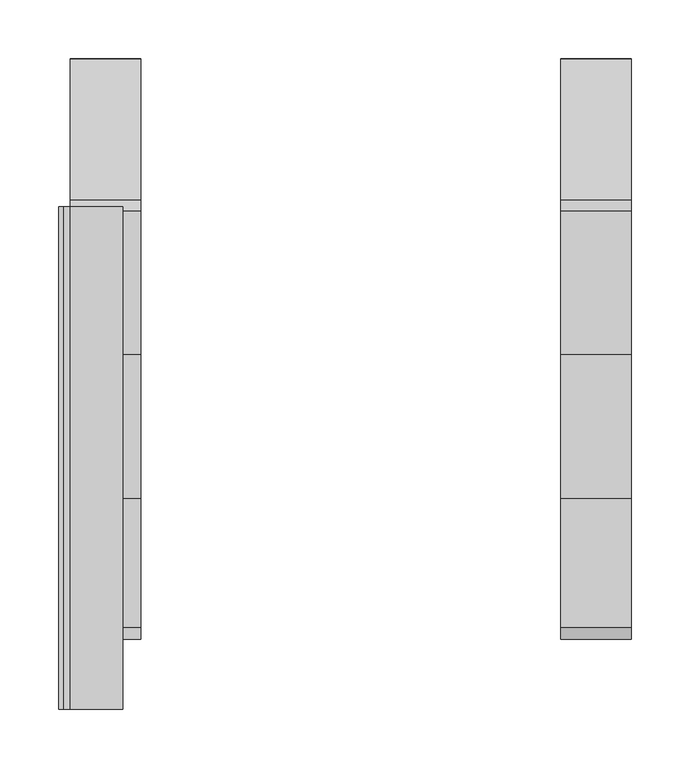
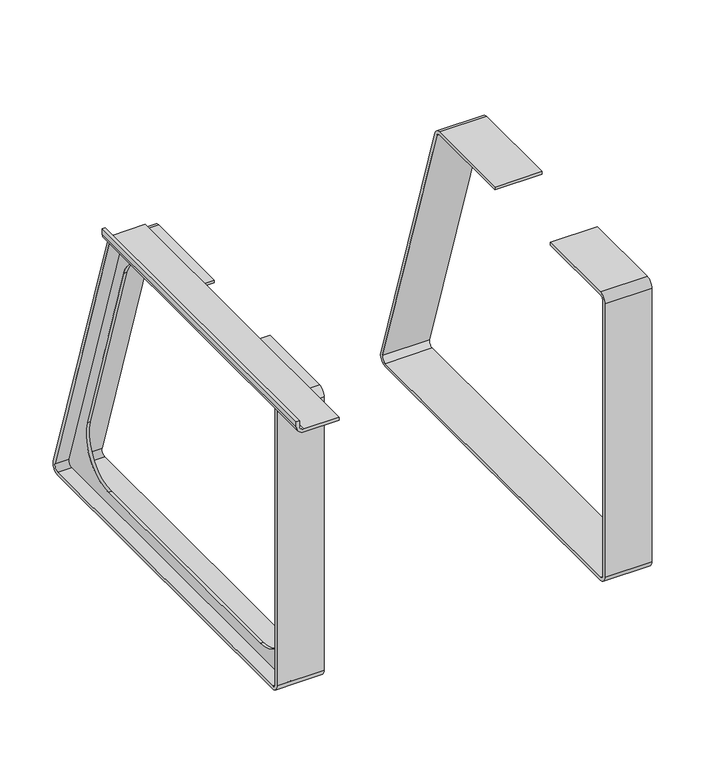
"""IFC4 building model written with IfcOpenShell, lengths in millimetres: furniture geometry, Roros Produkter - Trend - Chair - 32975 : Roros Produkter - Trend - Chair - 32975."""

from ifc_helpers import new_model, si_unit, point, frame, frame_2d, origin, place, context, project, spatial, polyline, circle_curve, trimmed, segment, composite_curve, outline, extrude, source, transform, mapped, element, save


def furniture_f364a5a9(model_context):
    return source(origin(), model_context, "Body", "SweptSolid", [
        extrude(outline(composite_curve([segment(trimmed(circle_curve(frame_2d((238.4053404, 31.7)), 10.0), [point((247.9159055, 34.7901699))], [point((238.4053404, 21.7))], False, "CARTESIAN"), True, "CONTINUOUS"), segment(polyline([(238.4053404, 21.7), (-237.8308404, 21.7)]), True, "CONTINUOUS"), segment(trimmed(circle_curve(frame_2d((-237.8308404, 31.7)), 10.0), [point((-237.8308404, 21.7))], [point((-247.8308404, 31.7))], False, "CARTESIAN"), True, "CONTINUOUS"), segment(polyline([(-247.8308404, 31.7), (-247.8308404, 401.464)]), True, "CONTINUOUS"), segment(trimmed(circle_curve(frame_2d((-237.8308404, 401.464)), 10.0), [point((-247.8308404, 401.464))], [point((-237.8308404, 411.464))], False, "CARTESIAN"), True, "CONTINUOUS"), segment(polyline([(-237.8308404, 411.464), (-127.8308404, 411.464), (-127.8308404, 407.464), (-237.8308404, 407.464)]), True, "CONTINUOUS"), segment(trimmed(circle_curve(frame_2d((-237.8308404, 401.464)), 6.0), [point((-237.8308404, 407.464))], [point((-243.8308404, 401.464))], True, "CARTESIAN"), True, "CONTINUOUS"), segment(polyline([(-243.8308404, 401.464), (-243.8308404, 31.7)]), True, "CONTINUOUS"), segment(trimmed(circle_curve(frame_2d((-237.8308404, 31.7)), 6.0), [point((-243.8308404, 31.7))], [point((-237.8308404, 25.7))], True, "CARTESIAN"), True, "CONTINUOUS"), segment(polyline([(-237.8308404, 25.7), (238.4053404, 25.7)]), True, "CONTINUOUS"), segment(trimmed(circle_curve(frame_2d((238.4053404, 31.7)), 6.0), [point((238.4053404, 25.7))], [point((244.1116795, 33.554102))], True, "CARTESIAN"), True, "CONTINUOUS"), segment(polyline([(244.1116795, 33.554102), (123.9681107, 403.3179856)]), True, "CONTINUOUS"), segment(trimmed(circle_curve(frame_2d((118.2617716, 401.4638836)), 6.0), [point((123.9681107, 403.3179856))], [point((118.2617716, 407.4638836))], True, "CARTESIAN"), True, "CONTINUOUS"), segment(polyline([(118.2617716, 407.4638836), (-4.4728031, 407.4638836), (-4.4728031, 411.4638836), (118.2617716, 411.4638836)]), True, "CONTINUOUS"), segment(trimmed(circle_curve(frame_2d((118.2617716, 401.4638836)), 10.0), [point((118.2617716, 411.4638836))], [point((127.7723368, 404.5540536))], False, "CARTESIAN"), True, "CONTINUOUS"), segment(polyline([(127.7723368, 404.5540536), (247.9159055, 34.7901699)]), True, "CONTINUOUS")], self_intersect=False)), frame((179.2, 0.0, 0.0), z_axis=(1.0, 0.0, 0.0), x_axis=(0.0, 1.0, 0.0)), (0.0, 0.0, 1.0), 60.0),
        extrude(outline(composite_curve([segment(polyline([(428.7988272, -246.0), (428.7988272, -250.0), (421.464, -250.0)]), True, "CONTINUOUS"), segment(trimmed(circle_curve(frame_2d((421.464, -240.0)), 10.0), [point((421.464, -250.0))], [point((411.464, -240.0))], False, "CARTESIAN"), True, "CONTINUOUS"), segment(polyline([(411.464, -240.0), (411.464, -195.0), (415.464, -195.0), (415.464, -240.0)]), True, "CONTINUOUS"), segment(trimmed(circle_curve(frame_2d((421.464, -240.0)), 6.0), [point((415.464, -240.0))], [point((421.464, -246.0))], True, "CARTESIAN"), True, "CONTINUOUS"), segment(polyline([(421.464, -246.0), (428.7988272, -246.0)]), True, "CONTINUOUS")], self_intersect=False)), frame((0.0, -307.8308404, 0.0), z_axis=(0.0, 1.0, 0.0), x_axis=(0.0, 0.0, 1.0)), (0.0, 0.0, 1.0), 429.5731445),
        extrude(outline(composite_curve([segment(trimmed(circle_curve(frame_2d((238.4053404, 31.7)), 6.0), [point((244.1116795, 33.554102))], [point((238.4053404, 25.7))], False, "CARTESIAN"), True, "CONTINUOUS"), segment(polyline([(238.4053404, 25.7), (-237.8308404, 25.7)]), True, "CONTINUOUS"), segment(trimmed(circle_curve(frame_2d((-237.8308404, 31.7)), 6.0), [point((-237.8308404, 25.7))], [point((-243.8308404, 31.7))], False, "CARTESIAN"), True, "CONTINUOUS"), segment(polyline([(-243.8308404, 31.7), (-243.8308404, 401.464)]), True, "CONTINUOUS"), segment(trimmed(circle_curve(frame_2d((-237.8308404, 401.464)), 6.0), [point((-243.8308404, 401.464))], [point((-237.8308404, 407.464))], False, "CARTESIAN"), True, "CONTINUOUS"), segment(polyline([(-237.8308404, 407.464), (-127.8308404, 407.464), (-127.8308404, 392.464), (-178.8308404, 392.464)]), True, "CONTINUOUS"), segment(trimmed(circle_curve(frame_2d((-178.8308404, 342.464)), 50.0), [point((-178.8308404, 392.464))], [point((-228.8308404, 342.464))], True, "CARTESIAN"), True, "CONTINUOUS"), segment(polyline([(-228.8308404, 342.464), (-228.8308404, 91.2638836)]), True, "CONTINUOUS"), segment(trimmed(circle_curve(frame_2d((-178.8308404, 91.2638836)), 50.0), [point((-228.8308404, 91.2638836))], [point((-178.8308404, 41.2638836))], True, "CARTESIAN"), True, "CONTINUOUS"), segment(polyline([(-178.8308404, 41.2638836), (157.0155902, 41.2638836)]), True, "CONTINUOUS"), segment(trimmed(circle_curve(frame_2d((157.0155902, 91.2638836)), 50.0), [point((157.0155902, 41.2638836))], [point((204.568416, 106.7147333))], True, "CARTESIAN"), True, "CONTINUOUS"), segment(polyline([(204.568416, 106.7147333), (123.0135722, 357.7147333)]), True, "CONTINUOUS"), segment(trimmed(circle_curve(frame_2d((75.4607464, 342.2638836)), 50.0), [point((123.0135722, 357.7147333))], [point((75.4607464, 392.2638836))], True, "CARTESIAN"), True, "CONTINUOUS"), segment(polyline([(75.4607464, 392.2638836), (-4.4728031, 392.2638836), (-4.4728031, 407.4638836), (118.2617716, 407.4638836)]), True, "CONTINUOUS"), segment(trimmed(circle_curve(frame_2d((118.2617716, 401.4638836)), 6.0), [point((118.2617716, 407.4638836))], [point((123.9681107, 403.3179856))], False, "CARTESIAN"), True, "CONTINUOUS"), segment(polyline([(123.9681107, 403.3179856), (244.1116795, 33.554102)]), True, "CONTINUOUS")], self_intersect=False)), frame((-221.8, 0.0, 0.0), z_axis=(1.0, 0.0, 0.0), x_axis=(0.0, 1.0, 0.0)), (0.0, 0.0, 1.0), 4.0),
        extrude(outline(composite_curve([segment(trimmed(circle_curve(frame_2d((238.4053404, 31.7)), 10.0), [point((247.9159055, 34.7901699))], [point((238.4053404, 21.7))], False, "CARTESIAN"), True, "CONTINUOUS"), segment(polyline([(238.4053404, 21.7), (-237.8308404, 21.7)]), True, "CONTINUOUS"), segment(trimmed(circle_curve(frame_2d((-237.8308404, 31.7)), 10.0), [point((-237.8308404, 21.7))], [point((-247.8308404, 31.7))], False, "CARTESIAN"), True, "CONTINUOUS"), segment(polyline([(-247.8308404, 31.7), (-247.8308404, 401.464)]), True, "CONTINUOUS"), segment(trimmed(circle_curve(frame_2d((-237.8308404, 401.464)), 10.0), [point((-247.8308404, 401.464))], [point((-237.8308404, 411.464))], False, "CARTESIAN"), True, "CONTINUOUS"), segment(polyline([(-237.8308404, 411.464), (-127.8308404, 411.464), (-127.8308404, 407.464), (-237.8308404, 407.464)]), True, "CONTINUOUS"), segment(trimmed(circle_curve(frame_2d((-237.8308404, 401.464)), 6.0), [point((-237.8308404, 407.464))], [point((-243.8308404, 401.464))], True, "CARTESIAN"), True, "CONTINUOUS"), segment(polyline([(-243.8308404, 401.464), (-243.8308404, 31.7)]), True, "CONTINUOUS"), segment(trimmed(circle_curve(frame_2d((-237.8308404, 31.7)), 6.0), [point((-243.8308404, 31.7))], [point((-237.8308404, 25.7))], True, "CARTESIAN"), True, "CONTINUOUS"), segment(polyline([(-237.8308404, 25.7), (238.4053404, 25.7)]), True, "CONTINUOUS"), segment(trimmed(circle_curve(frame_2d((238.4053404, 31.7)), 6.0), [point((238.4053404, 25.7))], [point((244.1116795, 33.554102))], True, "CARTESIAN"), True, "CONTINUOUS"), segment(polyline([(244.1116795, 33.554102), (123.9681107, 403.3179856)]), True, "CONTINUOUS"), segment(trimmed(circle_curve(frame_2d((118.2617716, 401.4638836)), 6.0), [point((123.9681107, 403.3179856))], [point((118.2617716, 407.4638836))], True, "CARTESIAN"), True, "CONTINUOUS"), segment(polyline([(118.2617716, 407.4638836), (-4.4728031, 407.4638836), (-4.4728031, 411.4638836), (118.2617716, 411.4638836)]), True, "CONTINUOUS"), segment(trimmed(circle_curve(frame_2d((118.2617716, 401.4638836)), 10.0), [point((118.2617716, 411.4638836))], [point((127.7723368, 404.5540536))], False, "CARTESIAN"), True, "CONTINUOUS"), segment(polyline([(127.7723368, 404.5540536), (247.9159055, 34.7901699)]), True, "CONTINUOUS")], self_intersect=False)), frame((-239.8, 0.0, 0.0), z_axis=(1.0, 0.0, 0.0), x_axis=(0.0, 1.0, 0.0)), (0.0, 0.0, 1.0), 60.0),
    ])


if __name__ == "__main__":
    model = new_model("IFC4")
    model_context = context("Model", 3, world=origin())
    ifc_project = project(units=[si_unit("LENGTHUNIT", "METRE", prefix="MILLI")], contexts=[model_context])
    site = spatial("IfcSite", under=ifc_project)
    building = spatial("IfcBuilding", under=site)
    placement = place(None, origin())
    furniture_shape = furniture_f364a5a9(model_context)
    element("IfcFurniture", 1, ObjectType="Roros Produkter - Trend - Chair - 32975 : Roros Produkter - Trend - Chair - 32975", at=placement, inside=building, context=model_context, shape_type="MappedRepresentation", body=[
        mapped(furniture_shape, transform((0.0, 0.0, 0.0), x_axis=(1.0, 0.0, 0.0), y_axis=(0.0, 1.0, 0.0), z_axis=(0.0, 0.0, 1.0))),
    ])
    save(model, "model.ifc")
